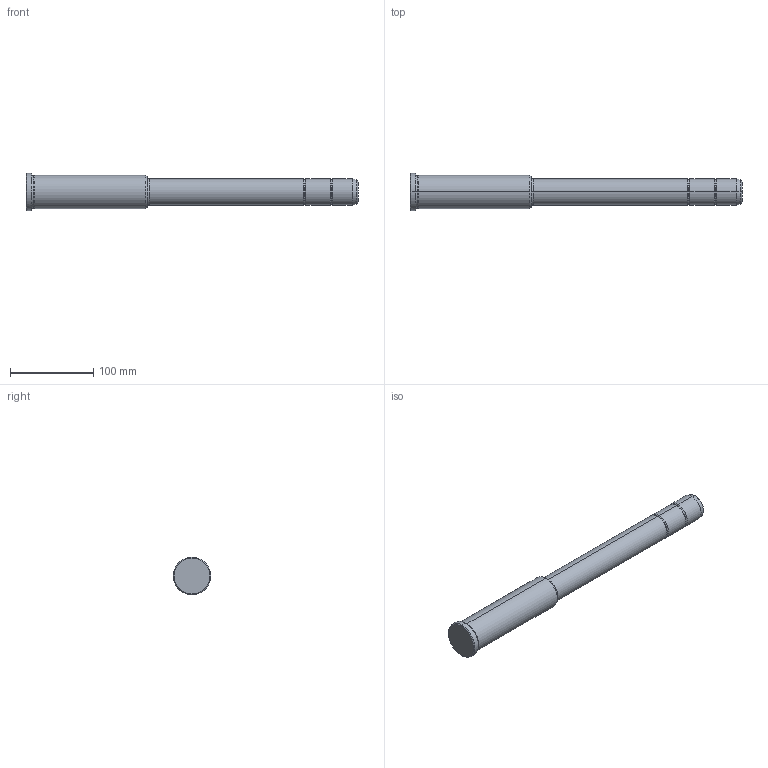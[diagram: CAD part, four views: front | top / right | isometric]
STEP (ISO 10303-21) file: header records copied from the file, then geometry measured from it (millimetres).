
FILE_DESCRIPTION(('CATIA V5 STEP Exchange'),'2;1');
FILE_NAME('C:\Users\Utente\Desktop\IO LAVORO\3D X SITO CF\X SITO\PLASTICA\351\351-32X146X400.stp','2021-10-28T18:39:04+00:00',('none'),('none'),'CATIA Version 5 Release 20 GA (IN-10)','CATIA V5 STEP AP203','none');
FILE_SCHEMA(('CONFIG_CONTROL_DESIGN'));
Length unit declared in the file: millimetre
Products named in the file (1): 351-32X146X400
Bounding box: 400 x 45 x 45 mm (x, y, z)
Volume: 388879.3 mm3; surface area: 46743.3 mm2
Topology: 1 solids, 1 shells, 36 faces, 102 edges, 70 vertices
Faces by surface type: torus 16, cylinder 10, cone 6, plane 4
Entity records: 1292 total; most frequent: CARTESIAN_POINT 321, ORIENTED_EDGE 204, DIRECTION 166, AXIS2_PLACEMENT_3D 115, EDGE_CURVE 102, CIRCLE 78, VERTEX_POINT 70, EDGE_LOOP 38
